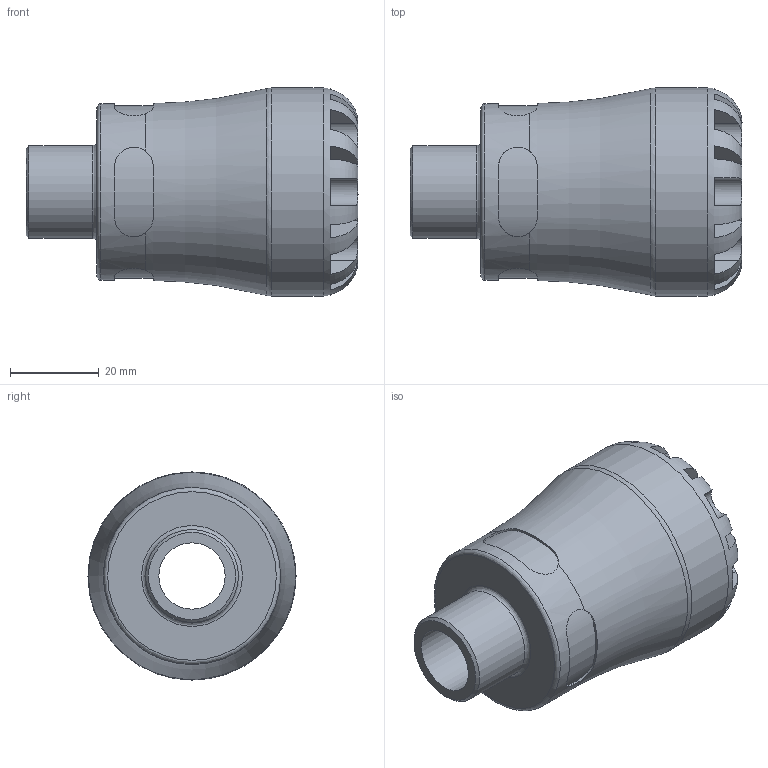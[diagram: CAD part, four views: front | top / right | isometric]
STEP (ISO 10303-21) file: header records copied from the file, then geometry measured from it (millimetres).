
FILE_DESCRIPTION(/* description */ ('PLASSON MALE ADAPTOR 25X1/2" SERIES 1'),/* implementation_level */ '2;1');
FILE_NAME(/* name */ 'C:\Dropbox\KIMPROJECTS-Inventor\99-16-3568-Processing\S1\1002\100200025005_190200025005.ipt.stp',/* time_stamp */ '2017-07-27T14:39:20+03:00',/* author */ ('KIM'),/* organization */ (''),/* preprocessor_version */ 'ST-DEVELOPER v15.6',/* originating_system */ 'Autodesk Inventor 2015',/* authorisation */ '');
FILE_SCHEMA (('AUTOMOTIVE_DESIGN { 1 0 10303 214 3 1 1 }'));
Length unit declared in the file: millimetre
Products named in the file (1): 100200025005_190200025005
Bounding box: 75 x 47 x 47 mm (x, y, z)
Volume: 60809.4 mm3; surface area: 17438.6 mm2
Topology: 1 solids, 1 shells, 100 faces, 257 edges, 161 vertices
Faces by surface type: plane 60, cylinder 33, torus 5, cone 2
Full cylindrical faces by diameter (mm): 15 x1, 20.955 x1, 25 x1, 39.95 x1, 47 x1
Entity records: 3784 total; most frequent: CARTESIAN_POINT 1465, ORIENTED_EDGE 484, DIRECTION 462, EDGE_CURVE 242, AXIS2_PLACEMENT_3D 191, VERTEX_POINT 158, EDGE_LOOP 116, FACE_OUTER_BOUND 100
